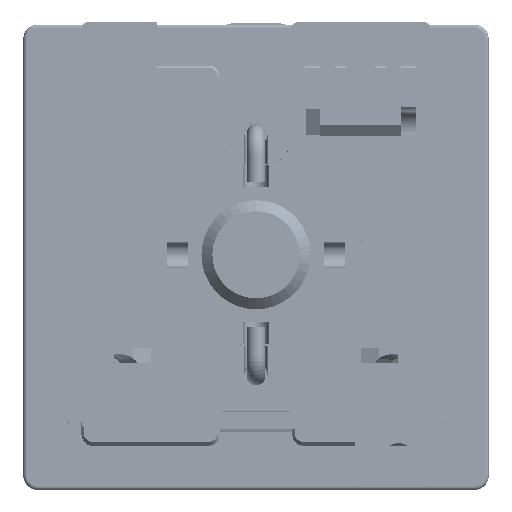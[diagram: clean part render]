
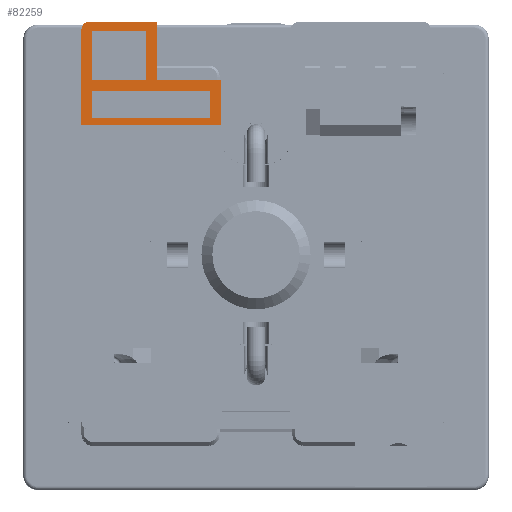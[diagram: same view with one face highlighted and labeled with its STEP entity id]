
A CAD part, top view. The second image highlights one B-rep face of the part: STEP entity #82259.
In plain terms, the highlighted planar face has unit normal (0, 0, 1).
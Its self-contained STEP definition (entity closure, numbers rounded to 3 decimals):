
#5506 = CARTESIAN_POINT ( 'NONE',  ( -53.715, 12.739, -144.082 ) ) ;
#7914 = DIRECTION ( 'NONE',  ( 1., 0., 0. ) ) ;
#9534 = EDGE_CURVE ( 'NONE', #258151, #250782, #371313, .T. ) ;
#10714 = CARTESIAN_POINT ( 'NONE',  ( -16.139, 18.939, -144.082 ) ) ;
#13635 = LINE ( 'NONE', #282395, #174072 ) ;
#15593 = DIRECTION ( 'NONE',  ( 0., 1., 0. ) ) ;
#18297 = ORIENTED_EDGE ( 'NONE', *, *, #373567, .F. ) ;
#19474 = DIRECTION ( 'NONE',  ( 1., 0., 0. ) ) ;
#29104 = CARTESIAN_POINT ( 'NONE',  ( -17.639, 26.889, -144.082 ) ) ;
#33089 = VECTOR ( 'NONE', #74398, 1000. ) ;
#44896 = ORIENTED_EDGE ( 'NONE', *, *, #9534, .F. ) ;
#50134 = VERTEX_POINT ( 'NONE', #236681 ) ;
#56857 = CARTESIAN_POINT ( 'NONE',  ( -16.139, 13.739, -144.082 ) ) ;
#58612 = CARTESIAN_POINT ( 'NONE',  ( -7.239, 26.889, -144.082 ) ) ;
#61615 = EDGE_CURVE ( 'NONE', #357809, #323481, #282510, .T. ) ;
#63446 = ORIENTED_EDGE ( 'NONE', *, *, #246036, .F. ) ;
#70619 = ORIENTED_EDGE ( 'NONE', *, *, #130324, .T. ) ;
#74283 = EDGE_CURVE ( 'NONE', #87340, #142376, #13635, .T. ) ;
#74398 = DIRECTION ( 'NONE',  ( 1., 0., 0. ) ) ;
#76786 = VERTEX_POINT ( 'NONE', #58612 ) ;
#77464 = LINE ( 'NONE', #119921, #248483 ) ;
#77757 = DIRECTION ( 'NONE',  ( 0., -1., 0. ) ) ;
#78455 = EDGE_CURVE ( 'NONE', #50134, #272721, #423507, .T. ) ;
#78985 = DIRECTION ( 'NONE',  ( -1., 0., 0. ) ) ;
#79062 = EDGE_CURVE ( 'NONE', #114039, #258151, #166084, .T. ) ;
#81649 = VECTOR ( 'NONE', #15593, 1000. ) ;
#82259 = ADVANCED_FACE ( 'NONE', ( #358392, #267607, #176850 ), #299808, .F. ) ;
#83750 = VECTOR ( 'NONE', #233603, 1000. ) ;
#84549 = DIRECTION ( 'NONE',  ( 0., -1., 0. ) ) ;
#87340 = VERTEX_POINT ( 'NONE', #377441 ) ;
#91175 = DIRECTION ( 'NONE',  ( 0., -1., 0. ) ) ;
#93622 = VECTOR ( 'NONE', #404391, 1000. ) ;
#95404 = VECTOR ( 'NONE', #19474, 1000. ) ;
#95548 = CARTESIAN_POINT ( 'NONE',  ( -16.639, 26.889, -144.082 ) ) ;
#98037 = DIRECTION ( 'NONE',  ( 0., 0., -1. ) ) ;
#110195 = VECTOR ( 'NONE', #113767, 1000. ) ;
#113767 = DIRECTION ( 'NONE',  ( 1., 0., 0. ) ) ;
#114039 = VERTEX_POINT ( 'NONE', #186661 ) ;
#115350 = CARTESIAN_POINT ( 'NONE',  ( -17.639, 25.889, -144.082 ) ) ;
#119921 = CARTESIAN_POINT ( 'NONE',  ( -16.139, 25.589, -144.082 ) ) ;
#120123 = DIRECTION ( 'NONE',  ( 1., 0., 0. ) ) ;
#122189 = VERTEX_POINT ( 'NONE', #183580 ) ;
#125362 = EDGE_CURVE ( 'NONE', #76786, #339983, #180143, .T. ) ;
#126822 = CARTESIAN_POINT ( 'NONE',  ( 0.061, 13.739, -144.082 ) ) ;
#127365 = AXIS2_PLACEMENT_3D ( 'NONE', #399815, #98037, #131047 ) ;
#129063 = CARTESIAN_POINT ( 'NONE',  ( 0.061, 13.739, -144.082 ) ) ;
#130324 = EDGE_CURVE ( 'NONE', #375739, #272721, #333425, .T. ) ;
#131047 = DIRECTION ( 'NONE',  ( 1., 0., 0. ) ) ;
#133153 = LINE ( 'NONE', #253645, #159705 ) ;
#142376 = VERTEX_POINT ( 'NONE', #223656 ) ;
#149679 = CARTESIAN_POINT ( 'NONE',  ( -8.739, 25.589, -144.082 ) ) ;
#151537 = CARTESIAN_POINT ( 'NONE',  ( -16.639, 25.889, -144.082 ) ) ;
#155155 = ORIENTED_EDGE ( 'NONE', *, *, #332898, .F. ) ;
#155242 = CARTESIAN_POINT ( 'NONE',  ( -8.739, 25.589, -144.082 ) ) ;
#159705 = VECTOR ( 'NONE', #78985, 1000. ) ;
#163656 = ORIENTED_EDGE ( 'NONE', *, *, #78455, .F. ) ;
#164281 = DIRECTION ( 'NONE',  ( 0., -1., 0. ) ) ;
#166084 = LINE ( 'NONE', #56857, #427811 ) ;
#172809 = ORIENTED_EDGE ( 'NONE', *, *, #79062, .F. ) ;
#174072 = VECTOR ( 'NONE', #77757, 1000. ) ;
#176850 = FACE_OUTER_BOUND ( 'NONE', #415803, .T. ) ;
#179085 = VECTOR ( 'NONE', #7914, 1000. ) ;
#180143 = LINE ( 'NONE', #441830, #329529 ) ;
#183580 = CARTESIAN_POINT ( 'NONE',  ( 0.061, 17.389, -144.082 ) ) ;
#186661 = CARTESIAN_POINT ( 'NONE',  ( -16.139, 17.389, -144.082 ) ) ;
#190084 = LINE ( 'NONE', #10714, #110195 ) ;
#191735 = VECTOR ( 'NONE', #84549, 1000. ) ;
#200754 = VECTOR ( 'NONE', #441211, 1000. ) ;
#212538 = CARTESIAN_POINT ( 'NONE',  ( -16.139, 13.739, -144.082 ) ) ;
#212567 = EDGE_CURVE ( 'NONE', #142376, #290713, #190084, .T. ) ;
#212673 = ORIENTED_EDGE ( 'NONE', *, *, #275465, .F. ) ;
#219768 = ORIENTED_EDGE ( 'NONE', *, *, #61615, .F. ) ;
#220435 = CARTESIAN_POINT ( 'NONE',  ( -17.639, -29.111, -144.082 ) ) ;
#223656 = CARTESIAN_POINT ( 'NONE',  ( -16.139, 18.939, -144.082 ) ) ;
#224312 = CARTESIAN_POINT ( 'NONE',  ( -7.239, 18.889, -144.082 ) ) ;
#233603 = DIRECTION ( 'NONE',  ( 0., 1., 0. ) ) ;
#234684 = CARTESIAN_POINT ( 'NONE',  ( 1.561, 18.889, -144.082 ) ) ;
#236681 = CARTESIAN_POINT ( 'NONE',  ( -17.639, 12.739, -144.082 ) ) ;
#238137 = LINE ( 'NONE', #155242, #93622 ) ;
#246036 = EDGE_CURVE ( 'NONE', #339983, #357809, #346483, .T. ) ;
#248483 = VECTOR ( 'NONE', #250006, 1000. ) ;
#250006 = DIRECTION ( 'NONE',  ( -1., 0., 0. ) ) ;
#250782 = VERTEX_POINT ( 'NONE', #126822 ) ;
#253645 = CARTESIAN_POINT ( 'NONE',  ( 0.061, 17.389, -144.082 ) ) ;
#258151 = VERTEX_POINT ( 'NONE', #212538 ) ;
#262303 = CARTESIAN_POINT ( 'NONE',  ( 1.561, 12.739, -144.082 ) ) ;
#266978 = AXIS2_PLACEMENT_3D ( 'NONE', #151537, #360473, #120123 ) ;
#267607 = FACE_BOUND ( 'NONE', #284758, .T. ) ;
#272721 = VERTEX_POINT ( 'NONE', #115350 ) ;
#275465 = EDGE_CURVE ( 'NONE', #290713, #414748, #238137, .T. ) ;
#276750 = EDGE_CURVE ( 'NONE', #50134, #323481, #391326, .T. ) ;
#282395 = CARTESIAN_POINT ( 'NONE',  ( -16.139, 25.589, -144.082 ) ) ;
#282510 = LINE ( 'NONE', #289099, #191735 ) ;
#284758 = EDGE_LOOP ( 'NONE', ( #371506, #348803, #349987, #212673 ) ) ;
#289099 = CARTESIAN_POINT ( 'NONE',  ( 1.561, 26.889, -144.082 ) ) ;
#290713 = VERTEX_POINT ( 'NONE', #417912 ) ;
#299808 = PLANE ( 'NONE',  #127365 ) ;
#309080 = CARTESIAN_POINT ( 'NONE',  ( -7.239, 18.889, -144.082 ) ) ;
#313164 = ORIENTED_EDGE ( 'NONE', *, *, #125362, .F. ) ;
#318115 = LINE ( 'NONE', #29104, #200754 ) ;
#323481 = VERTEX_POINT ( 'NONE', #262303 ) ;
#329529 = VECTOR ( 'NONE', #164281, 1000. ) ;
#332898 = EDGE_CURVE ( 'NONE', #250782, #122189, #441854, .T. ) ;
#333425 = CIRCLE ( 'NONE', #266978, 1. ) ;
#337612 = EDGE_CURVE ( 'NONE', #122189, #114039, #133153, .T. ) ;
#339983 = VERTEX_POINT ( 'NONE', #309080 ) ;
#346483 = LINE ( 'NONE', #224312, #95404 ) ;
#348803 = ORIENTED_EDGE ( 'NONE', *, *, #74283, .F. ) ;
#349987 = ORIENTED_EDGE ( 'NONE', *, *, #354144, .F. ) ;
#354144 = EDGE_CURVE ( 'NONE', #414748, #87340, #77464, .T. ) ;
#357809 = VERTEX_POINT ( 'NONE', #234684 ) ;
#358392 = FACE_BOUND ( 'NONE', #431444, .T. ) ;
#360473 = DIRECTION ( 'NONE',  ( 0., 0., 1. ) ) ;
#371313 = LINE ( 'NONE', #417161, #179085 ) ;
#371506 = ORIENTED_EDGE ( 'NONE', *, *, #212567, .F. ) ;
#373567 = EDGE_CURVE ( 'NONE', #375739, #76786, #318115, .T. ) ;
#375739 = VERTEX_POINT ( 'NONE', #95548 ) ;
#377441 = CARTESIAN_POINT ( 'NONE',  ( -16.139, 25.589, -144.082 ) ) ;
#389984 = ORIENTED_EDGE ( 'NONE', *, *, #337612, .F. ) ;
#391326 = LINE ( 'NONE', #5506, #33089 ) ;
#397534 = ORIENTED_EDGE ( 'NONE', *, *, #276750, .T. ) ;
#399815 = CARTESIAN_POINT ( 'NONE',  ( 6.361, -5.111, -144.082 ) ) ;
#404391 = DIRECTION ( 'NONE',  ( 0., 1., 0. ) ) ;
#414748 = VERTEX_POINT ( 'NONE', #149679 ) ;
#415803 = EDGE_LOOP ( 'NONE', ( #18297, #70619, #163656, #397534, #219768, #63446, #313164 ) ) ;
#417161 = CARTESIAN_POINT ( 'NONE',  ( 0.061, 13.739, -144.082 ) ) ;
#417912 = CARTESIAN_POINT ( 'NONE',  ( -8.739, 18.939, -144.082 ) ) ;
#423507 = LINE ( 'NONE', #220435, #81649 ) ;
#427811 = VECTOR ( 'NONE', #91175, 1000. ) ;
#431444 = EDGE_LOOP ( 'NONE', ( #172809, #389984, #155155, #44896 ) ) ;
#441211 = DIRECTION ( 'NONE',  ( 1., 0., 0. ) ) ;
#441830 = CARTESIAN_POINT ( 'NONE',  ( -7.239, 18.889, -144.082 ) ) ;
#441854 = LINE ( 'NONE', #129063, #83750 ) ;
